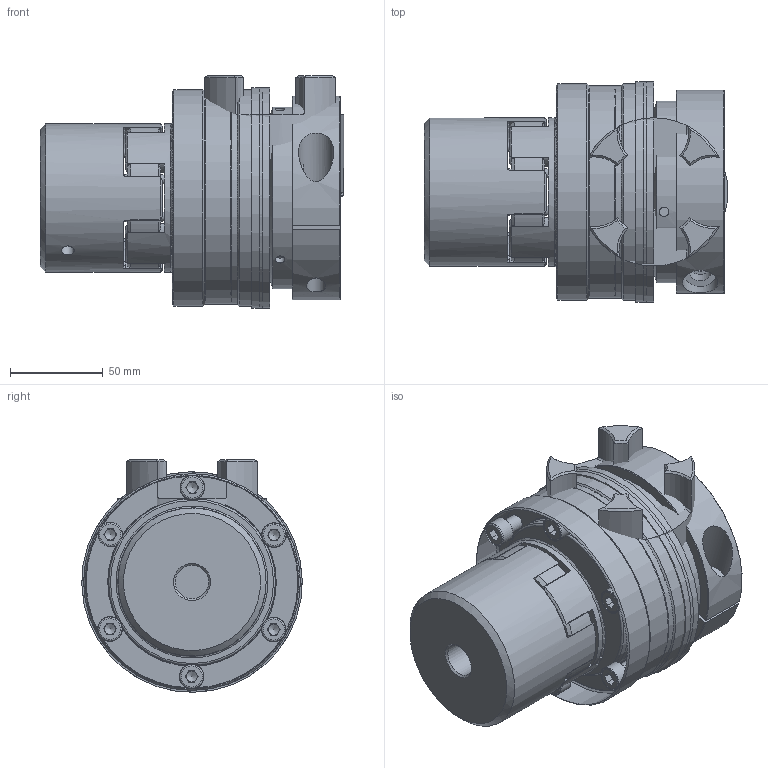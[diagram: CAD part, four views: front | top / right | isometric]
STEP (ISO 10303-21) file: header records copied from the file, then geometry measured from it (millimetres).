
FILE_DESCRIPTION( ( 'Unknown' ), '1' );
FILE_NAME( 'K:/Daten/homepage/cad - homepage/KBK-E-PK/KBK EPK-38.stp', 'Unknown', ( 'Unknown' ), ( 'Unknown' ), 'XStep 1.0', 'Unknown', ' ' );
FILE_SCHEMA( ( 'automotive_design' ) );
Length unit declared in the file: millimetre
Products named in the file (16): Assem1; Assem2; Assem3; ball_bearing_-_6011_0_01; ball_bearing_-_6011_0_02; ball_bearing_-_6011_0_03; Stellring 300; Druckring 300; Flansch 300; a_55; Zahnkranz_38_Standard; KBE 1 - 38_Nabe; Kupplung L-K-300 Grundkörper; Klemmnabe 300; Elastomerflansch 38; Socket Head Cap Screw_DIN_DIN 912 M8 x 25 --- 25C
Bounding box: 164 x 119 x 125.5 mm (x, y, z)
Volume: 2183342.2 mm3; surface area: 518294.9 mm2
Topology: 34 solids, 34 shells, 842 faces, 1915 edges, 1196 vertices
Faces by surface type: cylinder 294, plane 247, cone 230, torus 71
Full cylindrical faces by diameter (mm): 2.5 x4, 3.242 x6, 5 x16, 5.2 x6, 6.647 x12, 6.8 x2, 8 x7, 8.2 x12, 10.106 x2, 12.5 x2, 13 x7, 13.2 x12, 18 x2, 19 x2, 20 x2, 38 x4, 40 x2, 52 x2, 55 x7, 56 x2, 60 x2, 66.3 x6, 70 x2, 76 x4, 79.1 x6, 80 x4, 83.5 x2, 88 x2, 90 x7, 98 x2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
Entity records: 10691 total; most frequent: CARTESIAN_POINT 2658, DIRECTION 1722, ORIENTED_EDGE 1348, AXIS2_PLACEMENT_3D 805, EDGE_CURVE 674, EDGE_LOOP 544, VERTEX_POINT 481, FACE_OUTER_BOUND 444
